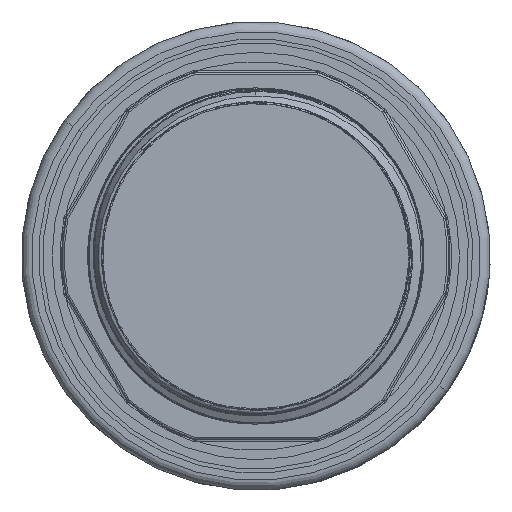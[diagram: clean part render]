
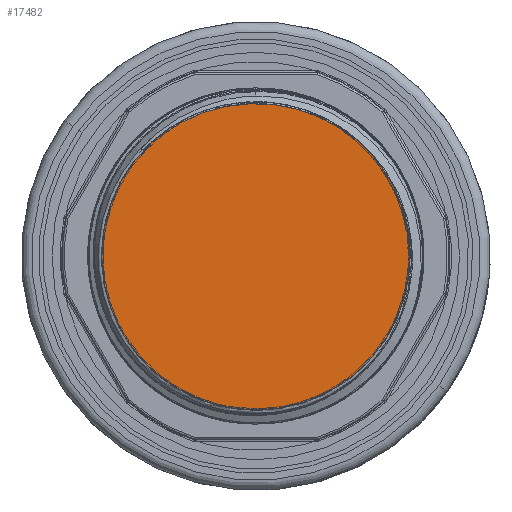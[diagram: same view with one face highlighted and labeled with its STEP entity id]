
A CAD part, front view. The second image highlights one B-rep face of the part: STEP entity #17482.
In plain terms, the highlighted planar face has unit normal (0, -1, 0).
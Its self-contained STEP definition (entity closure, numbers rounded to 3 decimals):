
#1899 = CARTESIAN_POINT ( 'NONE',  ( -1.768, 0., 7.284 ) ) ;
#1908 = CARTESIAN_POINT ( 'NONE',  ( 0., 0., 0. ) ) ;
#2005 = CARTESIAN_POINT ( 'NONE',  ( 4.235, 0., 6.238 ) ) ;
#2086 = ORIENTED_EDGE ( 'NONE', *, *, #20708, .F. ) ;
#2123 = PLANE ( 'NONE',  #16867 ) ;
#2880 = EDGE_LOOP ( 'NONE', ( #2086, #7355 ) ) ;
#3571 = CARTESIAN_POINT ( 'NONE',  ( -4.233, 0., 6.239 ) ) ;
#3792 = CARTESIAN_POINT ( 'NONE',  ( 4.604, 0., 5.987 ) ) ;
#4012 = DIRECTION ( 'NONE',  ( 0., -1., 0. ) ) ;
#5367 = DIRECTION ( 'NONE',  ( 0., 0., 1. ) ) ;
#6614 = CARTESIAN_POINT ( 'NONE',  ( 0., 0., 0. ) ) ;
#6944 = CARTESIAN_POINT ( 'NONE',  ( -3.045, 0., 6.867 ) ) ;
#7054 = CARTESIAN_POINT ( 'NONE',  ( 0.887, 0., 7.438 ) ) ;
#7168 = DIRECTION ( 'NONE',  ( 0., 1., 0. ) ) ;
#7355 = ORIENTED_EDGE ( 'NONE', *, *, #17455, .T. ) ;
#8596 = CARTESIAN_POINT ( 'NONE',  ( -3.452, 0., 6.68 ) ) ;
#8716 = CARTESIAN_POINT ( 'NONE',  ( 0.444, 0., 7.476 ) ) ;
#8726 = FACE_OUTER_BOUND ( 'NONE', #2880, .T. ) ;
#10704 = CARTESIAN_POINT ( 'NONE',  ( -4.953, 0., 5.708 ) ) ;
#11489 = CIRCLE ( 'NONE', #16506, 7.557 ) ;
#11961 = CARTESIAN_POINT ( 'NONE',  ( -0.884, 0., 7.438 ) ) ;
#12297 = CARTESIAN_POINT ( 'NONE',  ( 3.455, 0., 6.678 ) ) ;
#13756 = CARTESIAN_POINT ( 'NONE',  ( -2.201, 0., 7.17 ) ) ;
#13870 = CARTESIAN_POINT ( 'NONE',  ( 1.771, 0., 7.284 ) ) ;
#13975 = CARTESIAN_POINT ( 'NONE',  ( -4.603, 0., 5.988 ) ) ;
#15439 = CARTESIAN_POINT ( 'NONE',  ( -0.441, 0., 7.476 ) ) ;
#16506 = AXIS2_PLACEMENT_3D ( 'NONE', #6614, #4012, #5367 ) ;
#16867 = AXIS2_PLACEMENT_3D ( 'NONE', #1908, #7168, #20917 ) ;
#17343 = VERTEX_POINT ( 'NONE', #18811 ) ;
#17455 = EDGE_CURVE ( 'NONE', #17683, #17343, #11489, .T. ) ;
#17470 = CARTESIAN_POINT ( 'NONE',  ( 4.953, 0., 5.708 ) ) ;
#17482 = ADVANCED_FACE ( 'NONE', ( #8726 ), #2123, .F. ) ;
#17683 = VERTEX_POINT ( 'NONE', #10704 ) ;
#18811 = CARTESIAN_POINT ( 'NONE',  ( 4.953, 0., 5.708 ) ) ;
#19022 = CARTESIAN_POINT ( 'NONE',  ( 3.048, 0., 6.866 ) ) ;
#20462 = CARTESIAN_POINT ( 'NONE',  ( -4.953, 0., 5.708 ) ) ;
#20687 = CARTESIAN_POINT ( 'NONE',  ( 2.204, 0., 7.169 ) ) ;
#20708 = EDGE_CURVE ( 'NONE', #17683, #17343, #22138, .T. ) ;
#20917 = DIRECTION ( 'NONE',  ( 0., 0., 1. ) ) ;
#22138 = B_SPLINE_CURVE_WITH_KNOTS ( 'NONE', 3,
 ( #20462, #13975, #3571, #8596, #6944, #13756, #1899, #11961, #15439, #8716, #7054, #13870, #20687, #19022, #12297, #2005, #3792, #17470 ),
 .UNSPECIFIED., .F., .F.,
 ( 4, 2, 2, 2, 2, 2, 2, 2, 4 ),
 ( 0., 0.002, 0.003, 0.004, 0.006, 0.007, 0.008, 0.01, 0.011 ),
 .UNSPECIFIED. ) ;
